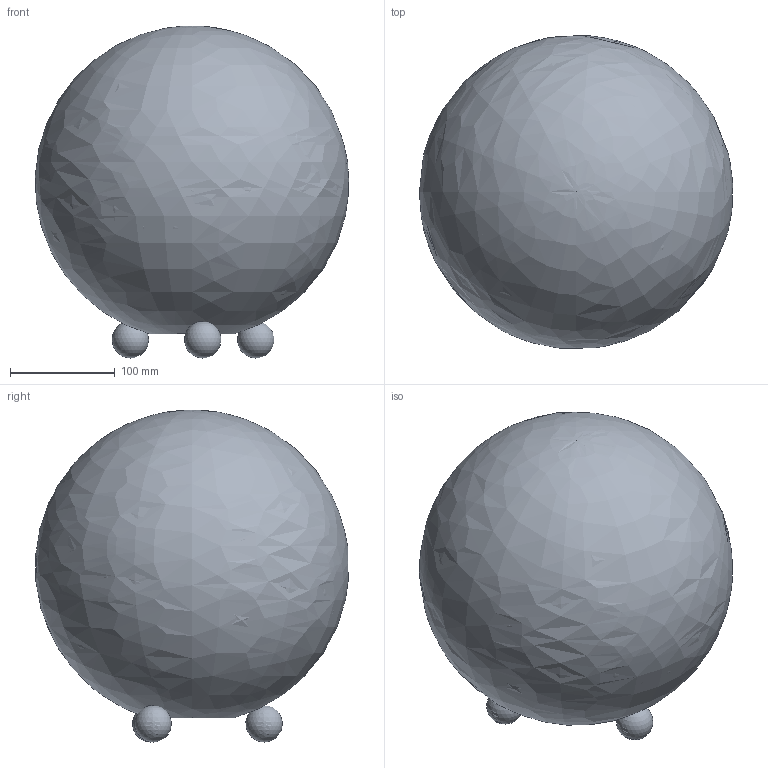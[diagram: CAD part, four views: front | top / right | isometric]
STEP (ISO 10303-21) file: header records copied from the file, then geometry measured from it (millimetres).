
FILE_DESCRIPTION(/* description */ (''),/* implementation_level */ '2;1');
FILE_NAME(/* name */ 'C:/Users/LukasGröber/GMS Cloud/Groeber Mannheim Lichtwerke - Dokumente/Marketing/Produkte/3D Daten/Snowball Tischleuchte/Snowball 30 Tischleuchte.step',/* time_stamp */ '2022-07-07T08:42:34+02:00',/* author */ (''),/* organization */ (''),/* preprocessor_version */ 'ST-DEVELOPER v19',/* originating_system */ 'Autodesk Translation Framework v11.7.0.108',/* authorisation */ '');
FILE_SCHEMA (('AUTOMOTIVE_DESIGN { 1 0 10303 214 3 1 1 }'));
Length unit declared in the file: millimetre
Products named in the file (1): Snowball 40 Tischleuchte (Modell)
Bounding box: 299.7 x 299.02 x 317.63 mm (x, y, z)
Volume: 344305.5 mm3; surface area: 566803.5 mm2
Topology: 4 solids, 4 shells, 6 faces, 15 edges, 10 vertices
Faces by surface type: sphere 3, bspline 2, plane 1
Entity records: 259 total; most frequent: CARTESIAN_POINT 112, DIRECTION 24, ORIENTED_EDGE 14, AXIS2_PLACEMENT_3D 12, VERTEX_POINT 10, EDGE_LOOP 7, CIRCLE 7, EDGE_CURVE 7
